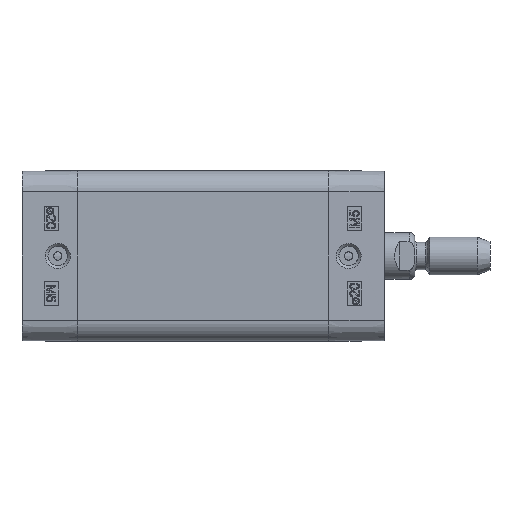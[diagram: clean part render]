
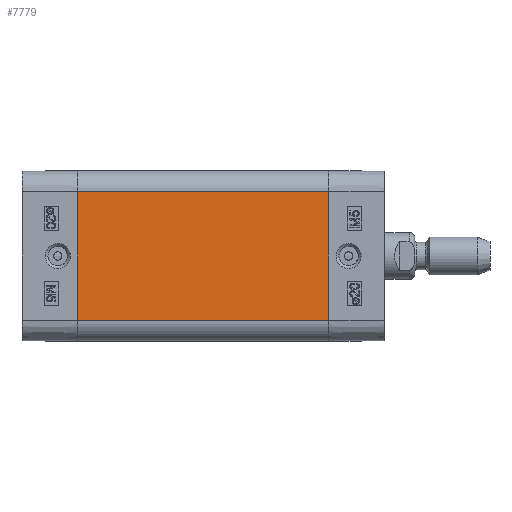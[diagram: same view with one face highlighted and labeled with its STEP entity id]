
A CAD part, left-side view. The second image highlights one B-rep face of the part: STEP entity #7779.
In plain terms, the highlighted planar face has unit normal (-1, 0, 0).
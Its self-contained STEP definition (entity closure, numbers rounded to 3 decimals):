
#6300=CARTESIAN_POINT('',(-18.15,-53.5,13.65));
#6301=VERTEX_POINT('',#6300);
#6308=CARTESIAN_POINT('',(-18.15,-53.5,-13.65));
#6309=VERTEX_POINT('',#6308);
#6310=CARTESIAN_POINT('',(-18.15,-53.5,-13.65));
#6311=DIRECTION('',(0.0,0.0,1.0));
#6312=VECTOR('',#6311,27.3);
#6313=LINE('',#6310,#6312);
#6314=EDGE_CURVE('',#6309,#6301,#6313,.T.);
#7737=CARTESIAN_POINT('',(-18.15,0.0,-13.65));
#7738=VERTEX_POINT('',#7737);
#7739=CARTESIAN_POINT('',(-18.15,0.0,-13.65));
#7740=DIRECTION('',(0.0,-1.0,0.0));
#7741=VECTOR('',#7740,53.5);
#7742=LINE('',#7739,#7741);
#7743=EDGE_CURVE('',#7738,#6309,#7742,.T.);
#7756=CARTESIAN_POINT('',(-18.15,0.0,-13.65));
#7757=DIRECTION('',(-1.0,0.0,0.0));
#7758=DIRECTION('',(0.0,0.0,1.0));
#7759=AXIS2_PLACEMENT_3D('',#7756,#7757,#7758);
#7760=PLANE('',#7759);
#7761=ORIENTED_EDGE('',*,*,#6314,.T.);
#7762=CARTESIAN_POINT('',(-18.15,0.0,13.65));
#7763=VERTEX_POINT('',#7762);
#7764=CARTESIAN_POINT('',(-18.15,0.0,13.65));
#7765=DIRECTION('',(0.0,-1.0,0.0));
#7766=VECTOR('',#7765,53.5);
#7767=LINE('',#7764,#7766);
#7768=EDGE_CURVE('',#7763,#6301,#7767,.T.);
#7769=ORIENTED_EDGE('',*,*,#7768,.F.);
#7770=CARTESIAN_POINT('',(-18.15,0.0,-13.65));
#7771=DIRECTION('',(0.0,0.0,1.0));
#7772=VECTOR('',#7771,27.3);
#7773=LINE('',#7770,#7772);
#7774=EDGE_CURVE('',#7738,#7763,#7773,.T.);
#7775=ORIENTED_EDGE('',*,*,#7774,.F.);
#7776=ORIENTED_EDGE('',*,*,#7743,.T.);
#7777=EDGE_LOOP('',(#7761,#7769,#7775,#7776));
#7778=FACE_OUTER_BOUND('',#7777,.T.);
#7779=ADVANCED_FACE('',(#7778),#7760,.T.);
